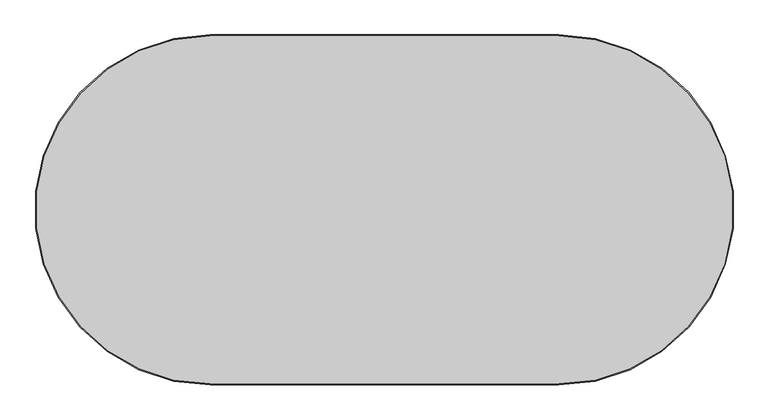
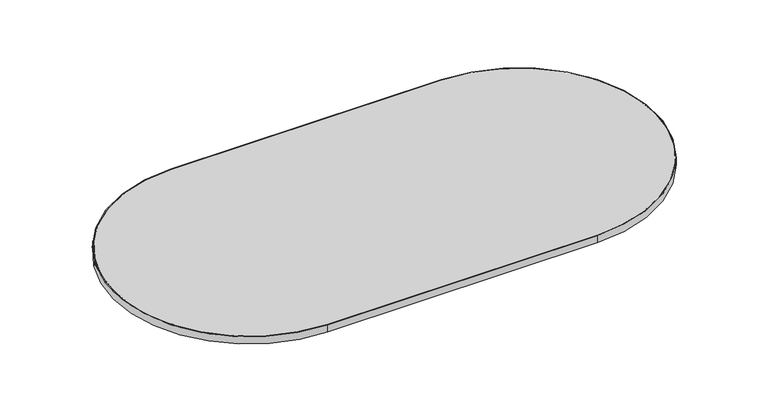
"""IFC4 building model written with IfcOpenShell, lengths in millimetres: furniture geometry, Steelcase - Answer Solution - Universal Table - Capsule - 3mm Edge : 42D x 84W."""

from ifc_helpers import new_model, si_unit, point, frame, frame_2d, origin, place, context, project, spatial, polyline, circle_curve, trimmed, segment, composite_curve, outline, extrude, source, transform, mapped, element, save


def furniture_5c34945c(model_context):
    return source(origin(), model_context, "Body", "SweptSolid", [
        extrude(outline(composite_curve([segment(trimmed(circle_curve(frame_2d((533.4, 0.0)), 536.4), [point((533.4, 536.4))], [point((533.4, -536.4))], False, "CARTESIAN"), True, "CONTINUOUS"), segment(polyline([(533.4, -536.4), (-533.4, -536.4)]), True, "CONTINUOUS"), segment(trimmed(circle_curve(frame_2d((-533.4, 0.0)), 536.4), [point((-533.4, -536.4))], [point((-533.4, 536.4))], False, "CARTESIAN"), True, "CONTINUOUS"), segment(polyline([(-533.4, 536.4), (533.4, 536.4)]), True, "CONTINUOUS")], self_intersect=False), holes=[composite_curve([segment(trimmed(circle_curve(frame_2d((-533.4, 0.0)), 533.4), [point((-533.4, 533.4))], [point((-533.4, -533.4))], True, "CARTESIAN"), True, "CONTINUOUS"), segment(polyline([(-533.4, -533.4), (533.4, -533.4)]), True, "CONTINUOUS"), segment(trimmed(circle_curve(frame_2d((533.4, 0.0)), 533.4), [point((533.4, -533.4))], [point((533.4, 533.4))], True, "CARTESIAN"), True, "CONTINUOUS"), segment(polyline([(533.4, 533.4), (-533.4, 533.4)]), True, "CONTINUOUS")], self_intersect=False)]), frame((0.0, 0.0, 668.274), z_axis=(0.0, 0.0, 1.0), x_axis=(1.0, 0.0, 0.0)), (0.0, 0.0, 1.0), 30.0990349),
        extrude(outline(composite_curve([segment(polyline([(-533.4, 533.4), (533.4, 533.4)]), True, "CONTINUOUS"), segment(trimmed(circle_curve(frame_2d((533.4, 0.0)), 533.4), [point((533.4, 533.4))], [point((533.4, -533.4))], False, "CARTESIAN"), True, "CONTINUOUS"), segment(polyline([(533.4, -533.4), (-533.4, -533.4)]), True, "CONTINUOUS"), segment(trimmed(circle_curve(frame_2d((-533.4, 0.0)), 533.4), [point((-533.4, -533.4))], [point((-533.4, 533.4))], False, "CARTESIAN"), True, "CONTINUOUS")], self_intersect=False)), frame((0.0, 0.0, 668.274), z_axis=(0.0, 0.0, 1.0), x_axis=(1.0, 0.0, 0.0)), (0.0, 0.0, 1.0), 30.0990349),
    ])


if __name__ == "__main__":
    model = new_model("IFC4")
    model_context = context("Model", 3, world=origin())
    ifc_project = project(units=[si_unit("LENGTHUNIT", "METRE", prefix="MILLI")], contexts=[model_context])
    site = spatial("IfcSite", under=ifc_project)
    building = spatial("IfcBuilding", under=site)
    placement = place(None, origin())
    furniture_shape = furniture_5c34945c(model_context)
    element("IfcFurniture", 1, ObjectType="Steelcase - Answer Solution - Universal Table - Capsule - 3mm Edge : 42D x 84W", at=placement, inside=building, context=model_context, shape_type="MappedRepresentation", body=[
        mapped(furniture_shape, transform((0.0, 0.0, 0.0), x_axis=(1.0, 0.0, 0.0), y_axis=(0.0, 1.0, 0.0), z_axis=(0.0, 0.0, 1.0))),
    ])
    save(model, "model.ifc")
